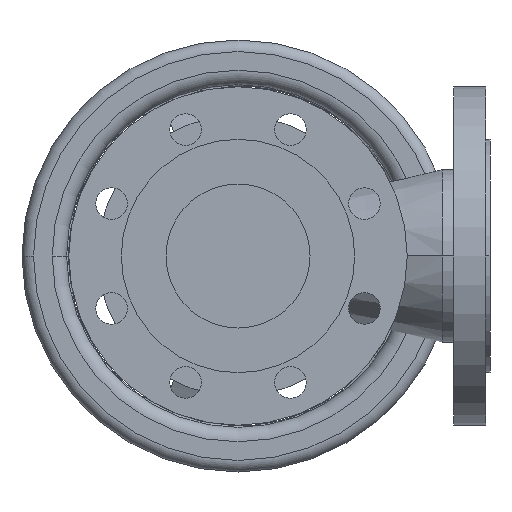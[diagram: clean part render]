
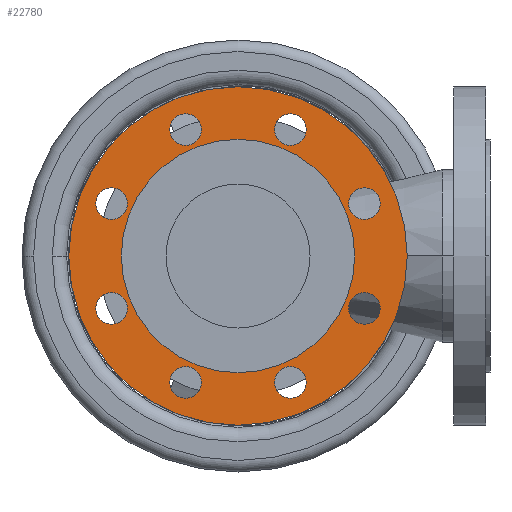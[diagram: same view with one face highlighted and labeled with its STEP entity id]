
A CAD part, front view. The second image highlights one B-rep face of the part: STEP entity #22780.
In plain terms, the highlighted planar face has unit normal (0, -1, 0).
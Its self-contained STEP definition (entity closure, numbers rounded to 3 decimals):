
#610=CARTESIAN_POINT('',(81.,3.,0.));
#620=VERTEX_POINT('',#610);
#780=CARTESIAN_POINT('',(-81.,3.,0.));
#790=VERTEX_POINT('',#780);
#820=CARTESIAN_POINT('',(0.,3.,0.));
#830=DIRECTION('',(0.,-1.,0.));
#840=DIRECTION('',(-1.,0.,0.));
#850=AXIS2_PLACEMENT_3D('',#820,#830,#840);
#860=CIRCLE('',#850,81.);
#870=EDGE_CURVE('',#620,#790,#860,.T.);
#8820=CARTESIAN_POINT('',(-117.5,3.,0.));
#8830=VERTEX_POINT('',#8820);
#8860=CARTESIAN_POINT('',(0.,3.,0.));
#8870=DIRECTION('',(0.,1.,0.));
#8880=DIRECTION('',(1.,0.,0.));
#8890=AXIS2_PLACEMENT_3D('',#8860,#8870,#8880);
#8900=CIRCLE('',#8890,117.5);
#8910=CARTESIAN_POINT('',(117.5,3.,0.));
#8920=VERTEX_POINT('',#8910);
#8930=EDGE_CURVE('',#8920,#8830,#8900,.T.);
#9210=CARTESIAN_POINT('',(76.769,3.,-36.355));
#9220=VERTEX_POINT('',#9210);
#9250=CARTESIAN_POINT('',(87.769,3.,-36.355));
#9260=DIRECTION('',(0.,1.,0.));
#9270=DIRECTION('',(1.,0.,0.));
#9280=AXIS2_PLACEMENT_3D('',#9250,#9260,#9270);
#9290=CIRCLE('',#9280,11.);
#9300=CARTESIAN_POINT('',(98.769,3.,-36.355));
#9310=VERTEX_POINT('',#9300);
#9320=EDGE_CURVE('',#9220,#9310,#9290,.T.);
#9600=CARTESIAN_POINT('',(76.769,3.,36.355));
#9610=VERTEX_POINT('',#9600);
#9690=CARTESIAN_POINT('',(98.769,3.,36.355));
#9700=VERTEX_POINT('',#9690);
#9730=CARTESIAN_POINT('',(87.769,3.,36.355));
#9740=DIRECTION('',(0.,1.,0.));
#9750=DIRECTION('',(1.,0.,0.));
#9760=AXIS2_PLACEMENT_3D('',#9730,#9740,#9750);
#9770=CIRCLE('',#9760,11.);
#9780=EDGE_CURVE('',#9700,#9610,#9770,.T.);
#9990=CARTESIAN_POINT('',(25.355,3.,-87.769));
#10000=VERTEX_POINT('',#9990);
#10080=CARTESIAN_POINT('',(47.355,3.,-87.769));
#10090=VERTEX_POINT('',#10080);
#10120=CARTESIAN_POINT('',(36.355,3.,-87.769));
#10130=DIRECTION('',(0.,1.,0.));
#10140=DIRECTION('',(1.,0.,0.));
#10150=AXIS2_PLACEMENT_3D('',#10120,#10130,#10140);
#10160=CIRCLE('',#10150,11.);
#10170=EDGE_CURVE('',#10090,#10000,#10160,.T.);
#10380=CARTESIAN_POINT('',(25.355,3.,87.769));
#10390=VERTEX_POINT('',#10380);
#10470=CARTESIAN_POINT('',(47.355,3.,87.769));
#10480=VERTEX_POINT('',#10470);
#10510=CARTESIAN_POINT('',(36.355,3.,87.769));
#10520=DIRECTION('',(0.,1.,0.));
#10530=DIRECTION('',(1.,0.,0.));
#10540=AXIS2_PLACEMENT_3D('',#10510,#10520,#10530);
#10550=CIRCLE('',#10540,11.);
#10560=EDGE_CURVE('',#10480,#10390,#10550,.T.);
#10770=CARTESIAN_POINT('',(-47.355,3.,-87.769));
#10780=VERTEX_POINT('',#10770);
#10860=CARTESIAN_POINT('',(-25.355,3.,-87.769));
#10870=VERTEX_POINT('',#10860);
#10900=CARTESIAN_POINT('',(-36.355,3.,-87.769));
#10910=DIRECTION('',(0.,1.,0.));
#10920=DIRECTION('',(1.,0.,0.));
#10930=AXIS2_PLACEMENT_3D('',#10900,#10910,#10920);
#10940=CIRCLE('',#10930,11.);
#10950=EDGE_CURVE('',#10870,#10780,#10940,.T.);
#11160=CARTESIAN_POINT('',(-25.355,3.,87.769));
#11170=VERTEX_POINT('',#11160);
#11200=CARTESIAN_POINT('',(-36.355,3.,87.769));
#11210=DIRECTION('',(0.,1.,0.));
#11220=DIRECTION('',(1.,0.,0.));
#11230=AXIS2_PLACEMENT_3D('',#11200,#11210,#11220);
#11240=CIRCLE('',#11230,11.);
#11250=CARTESIAN_POINT('',(-47.355,3.,87.769));
#11260=VERTEX_POINT('',#11250);
#11270=EDGE_CURVE('',#11170,#11260,#11240,.T.);
#11550=CARTESIAN_POINT('',(-76.769,3.,-36.355));
#11560=VERTEX_POINT('',#11550);
#11590=CARTESIAN_POINT('',(-87.769,3.,-36.355));
#11600=DIRECTION('',(0.,1.,0.));
#11610=DIRECTION('',(1.,0.,0.));
#11620=AXIS2_PLACEMENT_3D('',#11590,#11600,#11610);
#11630=CIRCLE('',#11620,11.);
#11640=CARTESIAN_POINT('',(-98.769,3.,-36.355));
#11650=VERTEX_POINT('',#11640);
#11660=EDGE_CURVE('',#11560,#11650,#11630,.T.);
#11940=CARTESIAN_POINT('',(-98.769,3.,36.355));
#11950=VERTEX_POINT('',#11940);
#12030=CARTESIAN_POINT('',(-76.769,3.,36.355));
#12040=VERTEX_POINT('',#12030);
#12070=CARTESIAN_POINT('',(-87.769,3.,36.355));
#12080=DIRECTION('',(0.,1.,0.));
#12090=DIRECTION('',(1.,0.,0.));
#12100=AXIS2_PLACEMENT_3D('',#12070,#12080,#12090);
#12110=CIRCLE('',#12100,11.);
#12120=EDGE_CURVE('',#12040,#11950,#12110,.T.);
#22230=CARTESIAN_POINT('',(0.,3.,0.));
#22240=DIRECTION('',(0.,1.,0.));
#22250=DIRECTION('',(0.,0.,1.));
#22260=AXIS2_PLACEMENT_3D('',#22230,#22240,#22250);
#22270=PLANE('',#22260);
#22280=EDGE_CURVE('',#11950,#12040,#12110,.T.);
#22290=ORIENTED_EDGE('',*,*,#22280,.T.);
#22300=ORIENTED_EDGE('',*,*,#12120,.T.);
#22310=EDGE_LOOP('',(#22300,#22290));
#22320=FACE_BOUND('',#22310,.T.);
#22330=EDGE_CURVE('',#11650,#11560,#11630,.T.);
#22340=ORIENTED_EDGE('',*,*,#22330,.T.);
#22350=ORIENTED_EDGE('',*,*,#11660,.T.);
#22360=EDGE_LOOP('',(#22350,#22340));
#22370=FACE_BOUND('',#22360,.T.);
#22380=ORIENTED_EDGE('',*,*,#11270,.T.);
#22390=EDGE_CURVE('',#11260,#11170,#11240,.T.);
#22400=ORIENTED_EDGE('',*,*,#22390,.T.);
#22410=EDGE_LOOP('',(#22400,#22380));
#22420=FACE_BOUND('',#22410,.T.);
#22430=EDGE_CURVE('',#10780,#10870,#10940,.T.);
#22440=ORIENTED_EDGE('',*,*,#22430,.T.);
#22450=ORIENTED_EDGE('',*,*,#10950,.T.);
#22460=EDGE_LOOP('',(#22450,#22440));
#22470=FACE_BOUND('',#22460,.T.);
#22480=EDGE_CURVE('',#10390,#10480,#10550,.T.);
#22490=ORIENTED_EDGE('',*,*,#22480,.T.);
#22500=ORIENTED_EDGE('',*,*,#10560,.T.);
#22510=EDGE_LOOP('',(#22500,#22490));
#22520=FACE_BOUND('',#22510,.T.);
#22530=EDGE_CURVE('',#10000,#10090,#10160,.T.);
#22540=ORIENTED_EDGE('',*,*,#22530,.T.);
#22550=ORIENTED_EDGE('',*,*,#10170,.T.);
#22560=EDGE_LOOP('',(#22550,#22540));
#22570=FACE_BOUND('',#22560,.T.);
#22580=EDGE_CURVE('',#9610,#9700,#9770,.T.);
#22590=ORIENTED_EDGE('',*,*,#22580,.T.);
#22600=ORIENTED_EDGE('',*,*,#9780,.T.);
#22610=EDGE_LOOP('',(#22600,#22590));
#22620=FACE_BOUND('',#22610,.T.);
#22630=ORIENTED_EDGE('',*,*,#9320,.T.);
#22640=EDGE_CURVE('',#9310,#9220,#9290,.T.);
#22650=ORIENTED_EDGE('',*,*,#22640,.T.);
#22660=EDGE_LOOP('',(#22650,#22630));
#22670=FACE_BOUND('',#22660,.T.);
#22680=EDGE_CURVE('',#8830,#8920,#8900,.T.);
#22690=ORIENTED_EDGE('',*,*,#22680,.F.);
#22700=ORIENTED_EDGE('',*,*,#8930,.F.);
#22710=EDGE_LOOP('',(#22700,#22690));
#22720=FACE_OUTER_BOUND('',#22710,.T.);
#22730=EDGE_CURVE('',#790,#620,#860,.T.);
#22740=ORIENTED_EDGE('',*,*,#22730,.F.);
#22750=ORIENTED_EDGE('',*,*,#870,.F.);
#22760=EDGE_LOOP('',(#22750,#22740));
#22770=FACE_BOUND('',#22760,.T.);
#22780=ADVANCED_FACE('',(#22320,#22370,#22420,#22470,#22520,#22570,
#22620,#22670,#22720,#22770),#22270,.F.);
